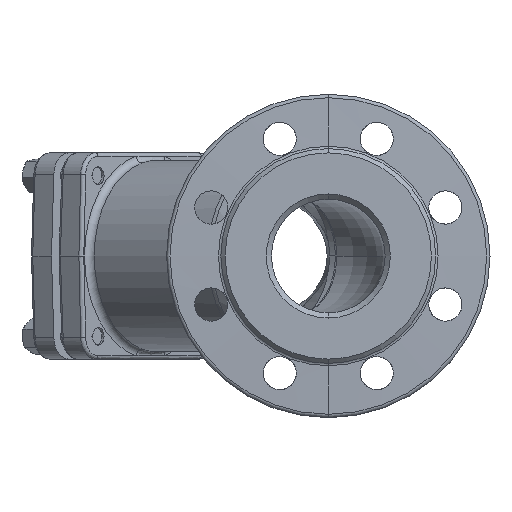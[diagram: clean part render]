
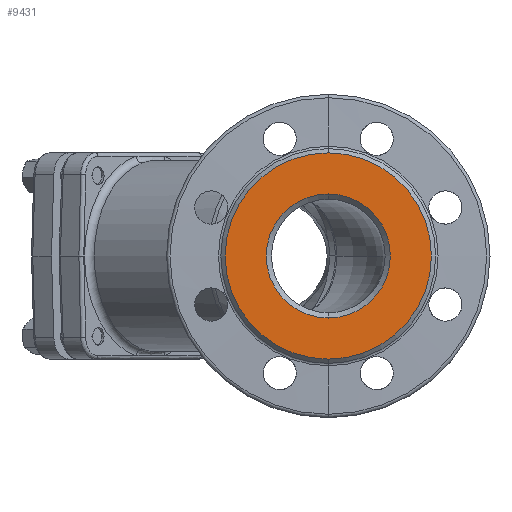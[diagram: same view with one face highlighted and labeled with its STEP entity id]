
A CAD part, left-side view. The second image highlights one B-rep face of the part: STEP entity #9431.
In plain terms, the highlighted planar face has unit normal (-1, 0, 0).
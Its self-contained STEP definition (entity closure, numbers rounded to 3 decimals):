
#1784 = CARTESIAN_POINT ( 'NONE',  ( 0., 0., 0. ) ) ;
#1789 = PLANE ( 'NONE',  #23524 ) ;
#1791 = DIRECTION ( 'NONE',  ( -1., 0., 0. ) ) ;
#1792 = DIRECTION ( 'NONE',  ( 0., 0., 1. ) ) ;
#4128 = CARTESIAN_POINT ( 'NONE',  ( 0., 0., 0. ) ) ;
#4130 = DIRECTION ( 'NONE',  ( 1., 0., 0. ) ) ;
#4131 = DIRECTION ( 'NONE',  ( 0., 0., 1. ) ) ;
#4457 = CIRCLE ( 'NONE', #23571, 35.5 ) ;
#4479 = CIRCLE ( 'NONE', #23579, 59. ) ;
#4875 = EDGE_CURVE ( 'NONE', #28844, #28806, #13857, .T. ) ;
#4929 = CARTESIAN_POINT ( 'NONE',  ( 0., 0., 0. ) ) ;
#5019 = DIRECTION ( 'NONE',  ( -1., 0., 0. ) ) ;
#5021 = DIRECTION ( 'NONE',  ( 0., 0., 1. ) ) ;
#6615 = EDGE_CURVE ( 'NONE', #16062, #16063, #20464, .T. ) ;
#9431 = ADVANCED_FACE ( 'NONE', ( #29779, #29780 ), #1789, .T. ) ;
#10763 = CARTESIAN_POINT ( 'NONE',  ( 0., 0., 59. ) ) ;
#10764 = CARTESIAN_POINT ( 'NONE',  ( 0., 0., -59. ) ) ;
#11125 = CARTESIAN_POINT ( 'NONE',  ( 0., 0., 35.5 ) ) ;
#11144 = CARTESIAN_POINT ( 'NONE',  ( 0., 0., -35.5 ) ) ;
#12971 = EDGE_LOOP ( 'NONE', ( #14141, #14134 ) ) ;
#13114 = EDGE_LOOP ( 'NONE', ( #14365, #14353 ) ) ;
#13857 = CIRCLE ( 'NONE', #15503, 35.5 ) ;
#14134 = ORIENTED_EDGE ( 'NONE', *, *, #6615, .T. ) ;
#14141 = ORIENTED_EDGE ( 'NONE', *, *, #14897, .T. ) ;
#14353 = ORIENTED_EDGE ( 'NONE', *, *, #4875, .T. ) ;
#14365 = ORIENTED_EDGE ( 'NONE', *, *, #14874, .T. ) ;
#14874 = EDGE_CURVE ( 'NONE', #28806, #28844, #4457, .T. ) ;
#14897 = EDGE_CURVE ( 'NONE', #16063, #16062, #4479, .T. ) ;
#15503 = AXIS2_PLACEMENT_3D ( 'NONE', #16308, #16357, #16358 ) ;
#15844 = AXIS2_PLACEMENT_3D ( 'NONE', #22027, #22028, #22029 ) ;
#16062 = VERTEX_POINT ( 'NONE', #10763 ) ;
#16063 = VERTEX_POINT ( 'NONE', #10764 ) ;
#16308 = CARTESIAN_POINT ( 'NONE',  ( 0., 0., 0. ) ) ;
#16357 = DIRECTION ( 'NONE',  ( 1., 0., 0. ) ) ;
#16358 = DIRECTION ( 'NONE',  ( 0., 0., 1. ) ) ;
#20464 = CIRCLE ( 'NONE', #15844, 59. ) ;
#22027 = CARTESIAN_POINT ( 'NONE',  ( 0., 0., 0. ) ) ;
#22028 = DIRECTION ( 'NONE',  ( -1., 0., 0. ) ) ;
#22029 = DIRECTION ( 'NONE',  ( 0., 0., 1. ) ) ;
#23524 = AXIS2_PLACEMENT_3D ( 'NONE', #1784, #1791, #1792 ) ;
#23571 = AXIS2_PLACEMENT_3D ( 'NONE', #4128, #4130, #4131 ) ;
#23579 = AXIS2_PLACEMENT_3D ( 'NONE', #4929, #5019, #5021 ) ;
#28806 = VERTEX_POINT ( 'NONE', #11125 ) ;
#28844 = VERTEX_POINT ( 'NONE', #11144 ) ;
#29779 = FACE_BOUND ( 'NONE', #13114, .T. ) ;
#29780 = FACE_OUTER_BOUND ( 'NONE', #12971, .T. ) ;
